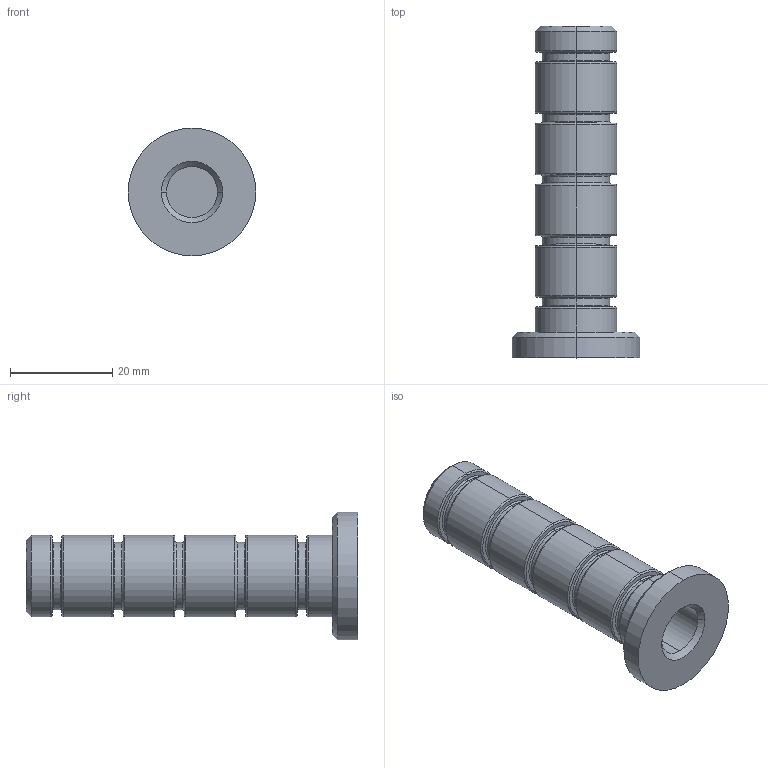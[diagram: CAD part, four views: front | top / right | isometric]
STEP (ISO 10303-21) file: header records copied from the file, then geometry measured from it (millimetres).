
FILE_DESCRIPTION (( 'STEP AP203' ), '1' );
FILE_NAME ('160821.1.step', '2014-08-11T17:00:17', ( 'User' ), ( '' ), 'SwSTEP 2.0', 'SolidWorks 2014', '' );
FILE_SCHEMA (( 'CONFIG_CONTROL_DESIGN' ));
Length unit declared in the file: millimetre
Products named in the file (2): 160821.1^160821.1_Detailliert; 160821.1
Assembly tree (1 placements, depth 2):
  160821.1
    160821.1^160821.1_Detailliert
Bounding box: 25 x 65 x 25 mm (x, y, z)
Volume: 11454.5 mm3; surface area: 5661.1 mm2
Topology: 1 solids, 1 shells, 91 faces, 184 edges, 108 vertices
Faces by surface type: torus 40, cylinder 28, plane 15, cone 8
Entity records: 2610 total; most frequent: DIRECTION 522, CARTESIAN_POINT 387, ORIENTED_EDGE 368, AXIS2_PLACEMENT_3D 243, EDGE_CURVE 184, CIRCLE 148, VERTEX_POINT 108, EDGE_LOOP 104
